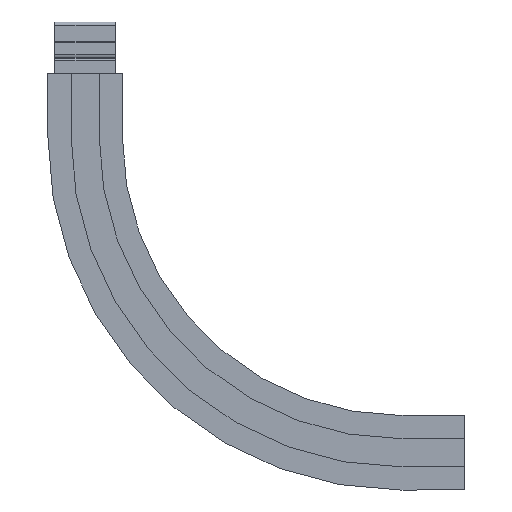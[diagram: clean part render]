
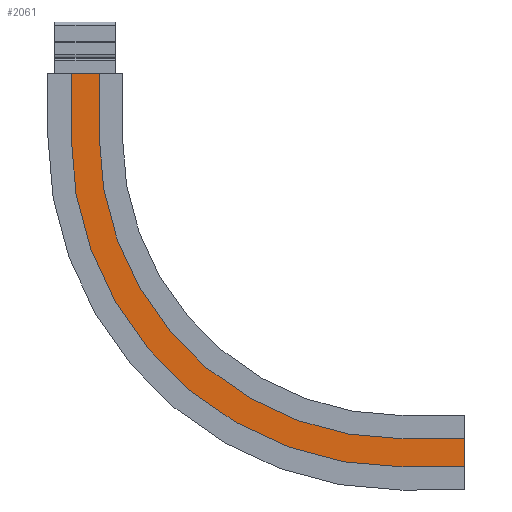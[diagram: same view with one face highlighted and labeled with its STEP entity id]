
A CAD part, front view. The second image highlights one B-rep face of the part: STEP entity #2061.
In plain terms, the highlighted planar face has unit normal (0, -1, 0).
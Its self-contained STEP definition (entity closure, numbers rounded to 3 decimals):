
#612 = CIRCLE ( 'NONE', #13213, 534. ) ;
#617 = VECTOR ( 'NONE', #3251, 1000. ) ;
#618 = LINE ( 'NONE', #3250, #617 ) ;
#627 = CIRCLE ( 'NONE', #13210, 466. ) ;
#633 = VECTOR ( 'NONE', #3231, 1000. ) ;
#634 = LINE ( 'NONE', #3230, #633 ) ;
#692 = VECTOR ( 'NONE', #3162, 1000. ) ;
#693 = LINE ( 'NONE', #3161, #692 ) ;
#694 = VECTOR ( 'NONE', #3160, 1000. ) ;
#695 = LINE ( 'NONE', #3159, #694 ) ;
#696 = VECTOR ( 'NONE', #3158, 1000. ) ;
#697 = LINE ( 'NONE', #3157, #696 ) ;
#698 = VECTOR ( 'NONE', #3156, 1000. ) ;
#699 = LINE ( 'NONE', #3155, #698 ) ;
#1208 = FACE_OUTER_BOUND ( 'NONE', #7045, .T. ) ;
#2061 = ADVANCED_FACE ( 'NONE', ( #1208 ), #6327, .T. ) ;
#3155 = CARTESIAN_POINT ( 'NONE',  ( 364.906, -43.722, -338.965 ) ) ;
#3156 = DIRECTION ( 'NONE',  ( 1., 0., 0. ) ) ;
#3157 = CARTESIAN_POINT ( 'NONE',  ( -101.094, -43.722, 295.035 ) ) ;
#3158 = DIRECTION ( 'NONE',  ( -1., 0., 0. ) ) ;
#3159 = CARTESIAN_POINT ( 'NONE',  ( 464.906, -43.722, -270.965 ) ) ;
#3160 = DIRECTION ( 'NONE',  ( 0., 0., -1. ) ) ;
#3161 = CARTESIAN_POINT ( 'NONE',  ( 364.906, -43.722, -270.965 ) ) ;
#3162 = DIRECTION ( 'NONE',  ( 1., 0., 0. ) ) ;
#3230 = CARTESIAN_POINT ( 'NONE',  ( -101.094, -43.722, 195.035 ) ) ;
#3231 = DIRECTION ( 'NONE',  ( 0., 0., 1. ) ) ;
#3236 = CARTESIAN_POINT ( 'NONE',  ( 364.906, -43.722, 195.035 ) ) ;
#3237 = DIRECTION ( 'NONE',  ( 0., 1., 0. ) ) ;
#3238 = DIRECTION ( 'NONE',  ( -1., 0., 0. ) ) ;
#3250 = CARTESIAN_POINT ( 'NONE',  ( -169.094, -43.722, 195.035 ) ) ;
#3251 = DIRECTION ( 'NONE',  ( 0., 0., 1. ) ) ;
#3257 = CARTESIAN_POINT ( 'NONE',  ( 364.906, -43.722, 195.035 ) ) ;
#3258 = DIRECTION ( 'NONE',  ( 0., 1., 0. ) ) ;
#3259 = DIRECTION ( 'NONE',  ( -1., 0., 0. ) ) ;
#4328 = CARTESIAN_POINT ( 'NONE',  ( -169.094, -43.722, 295.035 ) ) ;
#4329 = CARTESIAN_POINT ( 'NONE',  ( 364.906, -43.722, -338.965 ) ) ;
#4364 = CARTESIAN_POINT ( 'NONE',  ( -169.094, -43.722, 195.035 ) ) ;
#4388 = CARTESIAN_POINT ( 'NONE',  ( -101.094, -43.722, 295.035 ) ) ;
#4414 = CARTESIAN_POINT ( 'NONE',  ( 364.906, -43.722, -270.965 ) ) ;
#4453 = CARTESIAN_POINT ( 'NONE',  ( 464.906, -43.722, -270.965 ) ) ;
#4469 = CARTESIAN_POINT ( 'NONE',  ( 464.906, -43.722, -338.965 ) ) ;
#4522 = CARTESIAN_POINT ( 'NONE',  ( -101.094, -43.722, 195.035 ) ) ;
#6324 = DIRECTION ( 'NONE',  ( 0., 0., -1. ) ) ;
#6325 = DIRECTION ( 'NONE',  ( 0., -1., 0. ) ) ;
#6326 = CARTESIAN_POINT ( 'NONE',  ( 364.906, -43.722, -270.965 ) ) ;
#6327 = PLANE ( 'NONE',  #12853 ) ;
#7045 = EDGE_LOOP ( 'NONE', ( #9375, #9376, #9377, #9378, #9379, #9380, #9381, #9382 ) ) ;
#9375 = ORIENTED_EDGE ( 'NONE', *, *, #13648, .F. ) ;
#9376 = ORIENTED_EDGE ( 'NONE', *, *, #13649, .F. ) ;
#9377 = ORIENTED_EDGE ( 'NONE', *, *, #13684, .T. ) ;
#9378 = ORIENTED_EDGE ( 'NONE', *, *, #13681, .T. ) ;
#9379 = ORIENTED_EDGE ( 'NONE', *, *, #13647, .T. ) ;
#9380 = ORIENTED_EDGE ( 'NONE', *, *, #13690, .F. ) ;
#9381 = ORIENTED_EDGE ( 'NONE', *, *, #13693, .F. ) ;
#9382 = ORIENTED_EDGE ( 'NONE', *, *, #13646, .T. ) ;
#12053 = VERTEX_POINT ( 'NONE', #4328 ) ;
#12054 = VERTEX_POINT ( 'NONE', #4329 ) ;
#12089 = VERTEX_POINT ( 'NONE', #4364 ) ;
#12113 = VERTEX_POINT ( 'NONE', #4388 ) ;
#12139 = VERTEX_POINT ( 'NONE', #4414 ) ;
#12178 = VERTEX_POINT ( 'NONE', #4453 ) ;
#12194 = VERTEX_POINT ( 'NONE', #4469 ) ;
#12247 = VERTEX_POINT ( 'NONE', #4522 ) ;
#12853 = AXIS2_PLACEMENT_3D ( 'NONE', #6326, #6325, #6324 ) ;
#13210 = AXIS2_PLACEMENT_3D ( 'NONE', #3236, #3237, #3238 ) ;
#13213 = AXIS2_PLACEMENT_3D ( 'NONE', #3257, #3258, #3259 ) ;
#13646 = EDGE_CURVE ( 'NONE', #12054, #12194, #699, .T. ) ;
#13647 = EDGE_CURVE ( 'NONE', #12113, #12053, #697, .T. ) ;
#13648 = EDGE_CURVE ( 'NONE', #12178, #12194, #695, .T. ) ;
#13649 = EDGE_CURVE ( 'NONE', #12139, #12178, #693, .T. ) ;
#13681 = EDGE_CURVE ( 'NONE', #12247, #12113, #634, .T. ) ;
#13684 = EDGE_CURVE ( 'NONE', #12139, #12247, #627, .T. ) ;
#13690 = EDGE_CURVE ( 'NONE', #12089, #12053, #618, .T. ) ;
#13693 = EDGE_CURVE ( 'NONE', #12054, #12089, #612, .T. ) ;
